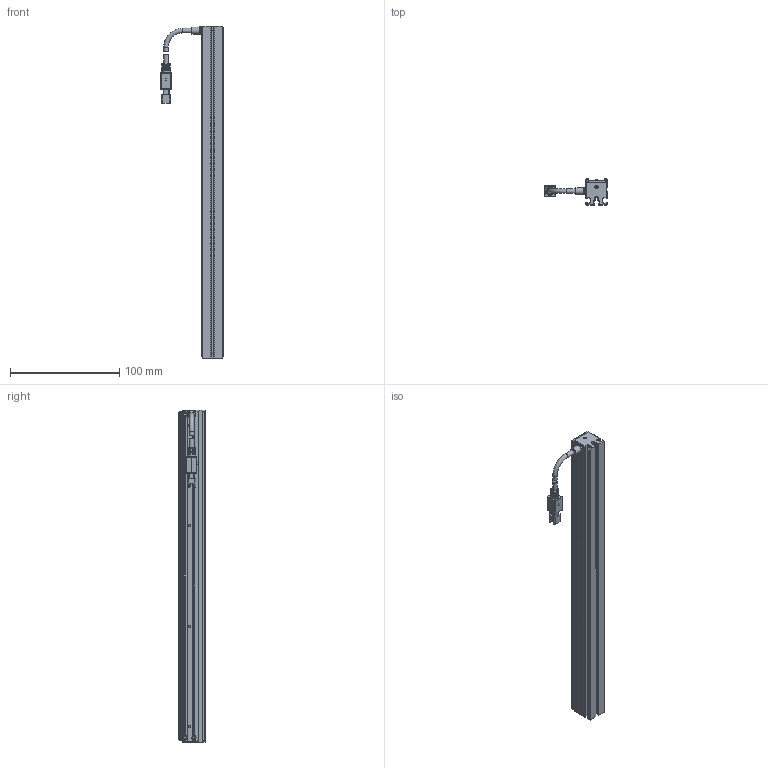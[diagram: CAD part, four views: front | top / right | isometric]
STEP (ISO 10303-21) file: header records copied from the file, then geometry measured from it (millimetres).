
FILE_DESCRIPTION (( 'STEP AP203' ), '1' );
FILE_NAME ('OPT-ULI30420W-UV-V1.0U 尨砩芞.STEP', '2024-12-11T03:32:41', ( '' ), ( '' ), 'SwSTEP 2.0', 'SolidWorks 2016', '' );
FILE_SCHEMA (( 'CONFIG_CONTROL_DESIGN' ));
Length unit declared in the file: millimetre
Products named in the file (1): OPT-ULI30420W-UV-V1.0U 尨砩芞
Bounding box: 57.6 x 24 x 304 mm (x, y, z)
Volume: 117707 mm3; surface area: 53064.4 mm2
Topology: 6 solids, 16 shells, 634 faces, 1638 edges, 1058 vertices
Faces by surface type: plane 431, cylinder 144, cone 30, bspline 21, torus 8
Full cylindrical faces by diameter (mm): 1.1 x2, 1.4 x4, 1.6 x9, 2 x15, 2.4 x7, 2.5 x2, 2.6 x2, 3 x2, 3.5 x1, 4.1 x4, 6.5 x1, 7 x1, 7.5 x1
Entity records: 19215 total; most frequent: CARTESIAN_POINT 4392, ORIENTED_EDGE 3018, DIRECTION 2942, EDGE_CURVE 1509, LINE 1044, VECTOR 1044, VERTEX_POINT 1014, AXIS2_PLACEMENT_3D 949
